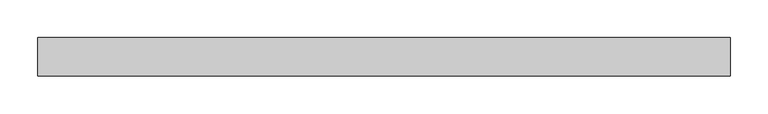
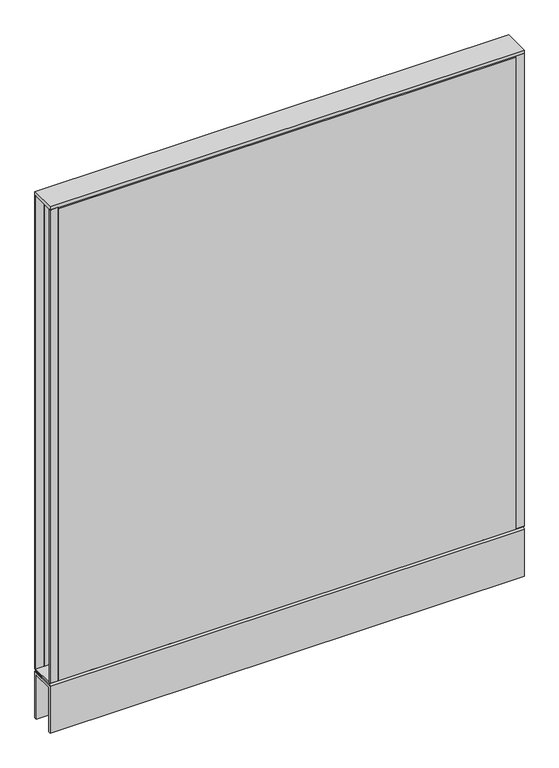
"""IFC4 building model written with IfcOpenShell, lengths in millimetres: furniture geometry, Steelcase - Kick Solutions - Panel - Monolithic - Tackable Acoustical : 42H x 36W."""

import ifcopenshell
import ifcopenshell.guid

model = None  # the IFC model being written
_history = None  # IfcOwnerHistory: only IFC2X3 demands one
_inside = {}  # id of a spatial element -> (the spatial element, [elements in it])
_under = {}  # id of a project, library or spatial element -> (it, [spatial elements below it])
_declared = {}  # id of a project -> (the project, [libraries it declares])
_typed = {}  # id of a type object -> (the type object, [elements of that type])
_made_of = {}  # id of a material, layer set ... -> (it, [elements and type objects made of it])


def new_model(schema):
    """Start an empty IFC model of exactly this schema.

    Asked for "IFC4X3", IfcOpenShell would pick the latest addendum, in which some entities
    have other attributes; the version numbers below select the first issue.
    IFC2X3 requires an IfcOwnerHistory on every rooted entity: one is made here for all.
    """
    global model, _history
    if schema == "IFC4X3":
        model = ifcopenshell.file(schema_version=(4, 3, 0, 0))
    else:
        model = ifcopenshell.file(schema=schema)
    _inside.clear()
    _under.clear()
    _declared.clear()
    _typed.clear()
    _made_of.clear()
    _history = None
    if model.schema == "IFC2X3":
        org = make("IfcOrganization", Name="unknown")
        user = make(
            "IfcPersonAndOrganization",
            ThePerson=make("IfcPerson", FamilyName="unknown"),
            TheOrganization=org,
        )
        app = make(
            "IfcApplication",
            ApplicationDeveloper=org,
            Version="unknown",
            ApplicationFullName="unknown",
            ApplicationIdentifier="unknown",
        )
        _history = make(
            "IfcOwnerHistory",
            OwningUser=user,
            OwningApplication=app,
            ChangeAction="ADDED",
            CreationDate=0,
        )
    return model


def make(cls, **values):
    """One entity of the class cls with the attributes given. An attribute that is None is left unset."""
    return model.create_entity(
        cls, **{name: value for name, value in values.items() if value is not None}
    )


def rooted(cls, **values):
    """An entity with a GlobalId (a new one), such as an element, a storey or a relation."""
    return make(cls, GlobalId=ifcopenshell.guid.new(), OwnerHistory=_history, **values)


def si_unit(unit_type, name, prefix=None):
    """IfcSIUnit, for example si_unit("LENGTHUNIT", "METRE", prefix="MILLI")."""
    return make("IfcSIUnit", UnitType=unit_type, Prefix=prefix, Name=name)


def assignment(units):
    """IfcUnitAssignment: the units of a project."""
    return None if units is None else make("IfcUnitAssignment", Units=units)


def point(xyz):
    """IfcCartesianPoint."""
    return None if xyz is None else make("IfcCartesianPoint", Coordinates=xyz)


def direction(xyz):
    """IfcDirection."""
    return None if xyz is None else make("IfcDirection", DirectionRatios=xyz)


def frame(location, z_axis=None, x_axis=None):
    """IfcAxis2Placement3D, a coordinate frame: its origin and axes. An axis left out is left unset."""
    return make(
        "IfcAxis2Placement3D",
        Location=point(location),
        Axis=direction(z_axis),
        RefDirection=direction(x_axis),
    )


def origin():
    """The frame at (0, 0, 0) with its axes left unset."""
    return frame((0.0, 0.0, 0.0))


def place(relative_to, where):
    """IfcLocalPlacement: puts the frame where relative to a parent placement (None: the world)."""
    return make(
        "IfcLocalPlacement", PlacementRelTo=relative_to, RelativePlacement=where
    )


def context(
    kind, dimensions, precision=None, world=None, true_north=None, identifier=None
):
    """IfcGeometricRepresentationContext, for example the 3D "Model" context."""
    return make(
        "IfcGeometricRepresentationContext",
        ContextIdentifier=identifier,
        ContextType=kind,
        CoordinateSpaceDimension=dimensions,
        Precision=precision,
        WorldCoordinateSystem=world,
        TrueNorth=true_north,
    )


def project(units=None, contexts=None):
    """IfcProject with its units and contexts."""
    return rooted(
        "IfcProject",
        Name="project",
        RepresentationContexts=contexts,
        UnitsInContext=assignment(units),
    )


def spatial(cls, under=None, at=None, **own):
    """A site, building, storey or space (cls), placed at a placement, below another one or the project."""
    s = rooted(cls, ObjectPlacement=at, **own)
    if under is not None:
        _under.setdefault(under.id(), (under, []))[1].append(s)
    return s


def polyline(points):
    """IfcPolyline through the points."""
    return make("IfcPolyline", Points=[point(p) for p in points])


def outline(outer, holes=None, kind="AREA"):
    """IfcArbitraryClosedProfileDef: a profile drawn as a closed curve; with holes, ...WithVoids."""
    if holes is None:
        return make("IfcArbitraryClosedProfileDef", ProfileType=kind, OuterCurve=outer)
    return make(
        "IfcArbitraryProfileDefWithVoids",
        ProfileType=kind,
        OuterCurve=outer,
        InnerCurves=holes,
    )


def extrude(swept, where, along, depth):
    """IfcExtrudedAreaSolid: the profile swept, set in the frame where, extruded along a direction by depth."""
    return make(
        "IfcExtrudedAreaSolid",
        SweptArea=swept,
        Position=where,
        ExtrudedDirection=direction(along),
        Depth=depth,
    )


def shape(context_of_items, identifier, shape_type, items):
    """IfcShapeRepresentation: the items that make up one representation, for example the "Body"."""
    return make(
        "IfcShapeRepresentation",
        ContextOfItems=context_of_items,
        RepresentationIdentifier=identifier,
        RepresentationType=shape_type,
        Items=items,
    )


def source(mapping_origin, context_of_items, identifier, shape_type, items):
    """IfcRepresentationMap: a shape defined once, which mapped items show again and again."""
    return make(
        "IfcRepresentationMap",
        MappingOrigin=mapping_origin,
        MappedRepresentation=shape(context_of_items, identifier, shape_type, items),
    )


def transform(
    local_origin,
    x_axis=None,
    y_axis=None,
    z_axis=None,
    scale=None,
    scale2=None,
    scale3=None,
    uniform=True,
):
    """IfcCartesianTransformationOperator3D, or its non-uniform kind. x_axis, y_axis, z_axis: its Axis1, 2, 3."""
    if uniform:
        return make(
            "IfcCartesianTransformationOperator3D",
            Axis1=direction(x_axis),
            Axis2=direction(y_axis),
            LocalOrigin=point(local_origin),
            Scale=scale,
            Axis3=direction(z_axis),
        )
    return make(
        "IfcCartesianTransformationOperator3DnonUniform",
        Axis1=direction(x_axis),
        Axis2=direction(y_axis),
        LocalOrigin=point(local_origin),
        Scale=scale,
        Axis3=direction(z_axis),
        Scale2=scale2,
        Scale3=scale3,
    )


def mapped(mapping_source, mapping_target):
    """IfcMappedItem: shows the shape of a source again, moved by a transform."""
    return make(
        "IfcMappedItem", MappingSource=mapping_source, MappingTarget=mapping_target
    )


def made_of(thing, what):
    """Note that an element or type object is made of a material, layer set ...; save() writes the relation."""
    if what is not None:
        _made_of.setdefault(what.id(), (what, []))[1].append(thing)
    return thing


def element(
    cls,
    number,
    at=None,
    inside=None,
    cuts=None,
    type_object=None,
    material=None,
    context=None,
    identifier="Body",
    shape_type=None,
    held_by="IfcProductDefinitionShape",
    body=None,
    shapes=None,
    **own,
):
    """One element of the class cls, such as IfcWall. Its Tag is "e" and its number.

    at: its placement. inside: the storey or other place that contains it. cuts: it is an
    opening in that element (IfcRelVoidsElement). A single representation is given by context,
    identifier, shape_type and body (its items); several are given by shapes. held_by: the class
    of the entity that holds the representations. save() writes the other relations.
    """
    e = rooted(cls, Tag="e%d" % number, ObjectPlacement=at, **own)
    if body is not None:
        shapes = [shape(context, identifier, shape_type, body)]
    if shapes is not None:
        e.Representation = make(held_by, Representations=shapes)
    if inside is not None:
        _inside.setdefault(inside.id(), (inside, []))[1].append(e)
    if cuts is not None:
        rooted(
            "IfcRelVoidsElement", RelatingBuildingElement=cuts, RelatedOpeningElement=e
        )
    if type_object is not None:
        _typed.setdefault(type_object.id(), (type_object, []))[1].append(e)
    return made_of(e, material)


def aggregate(whole, parts):
    """IfcRelAggregates: a whole, such as a stair, and the parts it consists of."""
    return rooted("IfcRelAggregates", RelatingObject=whole, RelatedObjects=parts)


def save(model, path):
    """Write the relations noted so far, then the file.

    IfcRelAggregates (storeys below a building ...), IfcRelContainedInSpatialStructure (elements
    in a storey), IfcRelDefinesByType, IfcRelAssociatesMaterial and IfcRelDeclares: one each for
    every whole, place, type object, material and project.
    """
    for whole, parts in _under.values():
        aggregate(whole, parts)
    for where, things in _inside.values():
        rooted(
            "IfcRelContainedInSpatialStructure",
            RelatedElements=things,
            RelatingStructure=where,
        )
    for kind, things in _typed.values():
        rooted("IfcRelDefinesByType", RelatedObjects=things, RelatingType=kind)
    for what, things in _made_of.values():
        rooted("IfcRelAssociatesMaterial", RelatedObjects=things, RelatingMaterial=what)
    for by, libraries in _declared.values():
        rooted("IfcRelDeclares", RelatingContext=by, RelatedDefinitions=libraries)
    model.write(path)


def furniture_4daa73c3(model_context):
    return source(origin(), model_context, "Body", "SweptSolid", [
        extrude(outline(polyline([(0.0, 101.7169049), (-3.1750015, 101.7169049), (-3.1750015, 1066.9169018), (0.0, 1063.8357466), (0.0, 101.7169049)])), frame((15.8749996, 0.0, 0.0), z_axis=(1.0, 0.0, 0.0), x_axis=(0.0, 1.0, 0.0)), (0.0, 0.0, 1.0), 882.6500008),
        extrude(outline(polyline([(-50.8000015, 101.7169049), (-50.8000015, 1063.8357466), (-47.625, 1066.9169018), (-47.625, 101.7169049), (-50.8000015, 101.7169049)])), frame((15.8749996, 0.0, 0.0), z_axis=(1.0, 0.0, 0.0), x_axis=(0.0, 1.0, 0.0)), (0.0, 0.0, 1.0), 882.6500008),
        extrude(outline(polyline([(914.4, -3.1750015), (898.5250004, -3.1750015), (898.5250004, 0.0), (914.4, 0.0), (914.4, -3.1750015)])), frame((0.0, 0.0, 101.7169049), z_axis=(0.0, 0.0, 1.0), x_axis=(1.0, 0.0, 0.0)), (0.0, 0.0, 1.0), 965.199997),
        extrude(outline(polyline([(15.8749996, -50.8000015), (0.0, -50.8000015), (0.0, -47.625), (15.8749996, -47.625), (15.8749996, -50.8000015)])), frame((0.0, 0.0, 101.7169049), z_axis=(0.0, 0.0, 1.0), x_axis=(1.0, 0.0, 0.0)), (0.0, 0.0, 1.0), 965.199997),
        extrude(outline(polyline([(-50.7995075, 101.7169049), (-0.000494, 101.7169049), (-3.0583512, 98.5421458), (-47.7416503, 98.5421458), (-50.7995075, 101.7169049)])), frame((0.0, 0.0, 0.0), z_axis=(1.0, 0.0, 0.0), x_axis=(0.0, 1.0, 0.0)), (0.0, 0.0, 1.0), 914.4),
        extrude(outline(polyline([(914.4, 0.0), (914.4, -50.8000015), (0.0, -50.8000015), (0.0, 0.0), (914.4, 0.0)])), frame((0.0, 0.0, 1066.9169018), z_axis=(0.0, 0.0, 1.0), x_axis=(1.0, 0.0, 0.0)), (0.0, 0.0, 1.0), 6.35),
        extrude(outline(polyline([(15.8749996, -3.1750015), (0.0, -3.1750015), (0.0, 0.0), (15.8749996, 0.0), (15.8749996, -3.1750015)])), frame((0.0, 0.0, 101.7169049), z_axis=(0.0, 0.0, 1.0), x_axis=(1.0, 0.0, 0.0)), (0.0, 0.0, 1.0), 965.199997),
        extrude(outline(polyline([(914.4, -50.8000015), (898.5250004, -50.8000015), (898.5250004, -47.625), (914.4, -47.625), (914.4, -50.8000015)])), frame((0.0, 0.0, 101.7169049), z_axis=(0.0, 0.0, 1.0), x_axis=(1.0, 0.0, 0.0)), (0.0, 0.0, 1.0), 965.199997),
        extrude(outline(polyline([(-50.8000015, 95.3668927), (-47.6247484, 98.5421458), (-3.1752531, 98.5421458), (0.0, 95.3668927), (-50.8000015, 95.3668927)])), frame((0.0, 0.0, 0.0), z_axis=(1.0, 0.0, 0.0), x_axis=(0.0, 1.0, 0.0)), (0.0, 0.0, 1.0), 914.4),
        extrude(outline(polyline([(0.0, 0.0), (-5.08, 0.0), (-5.08, 90.2869018), (-45.7200015, 90.2869018), (-45.7200015, 0.0), (-50.8000015, 0.0), (-50.8000015, 95.3669018), (0.0, 95.3669018), (0.0, 0.0)])), frame((0.0, 0.0, 0.0), z_axis=(1.0, 0.0, 0.0), x_axis=(0.0, 1.0, 0.0)), (0.0, 0.0, 1.0), 914.4),
    ])


if __name__ == "__main__":
    model = new_model("IFC4")
    model_context = context("Model", 3, world=origin())
    ifc_project = project(units=[si_unit("LENGTHUNIT", "METRE", prefix="MILLI")], contexts=[model_context])
    site = spatial("IfcSite", under=ifc_project)
    building = spatial("IfcBuilding", under=site)
    placement = place(None, origin())
    furniture_shape = furniture_4daa73c3(model_context)
    element("IfcFurniture", 1, ObjectType="Steelcase - Kick Solutions - Panel - Monolithic - Tackable Acoustical : 42H x 36W", at=placement, inside=building, context=model_context, shape_type="MappedRepresentation", body=[
        mapped(furniture_shape, transform((0.0, 0.0, 0.0), x_axis=(1.0, 0.0, 0.0), y_axis=(0.0, 1.0, 0.0), z_axis=(0.0, 0.0, 1.0))),
    ])
    save(model, "model.ifc")
